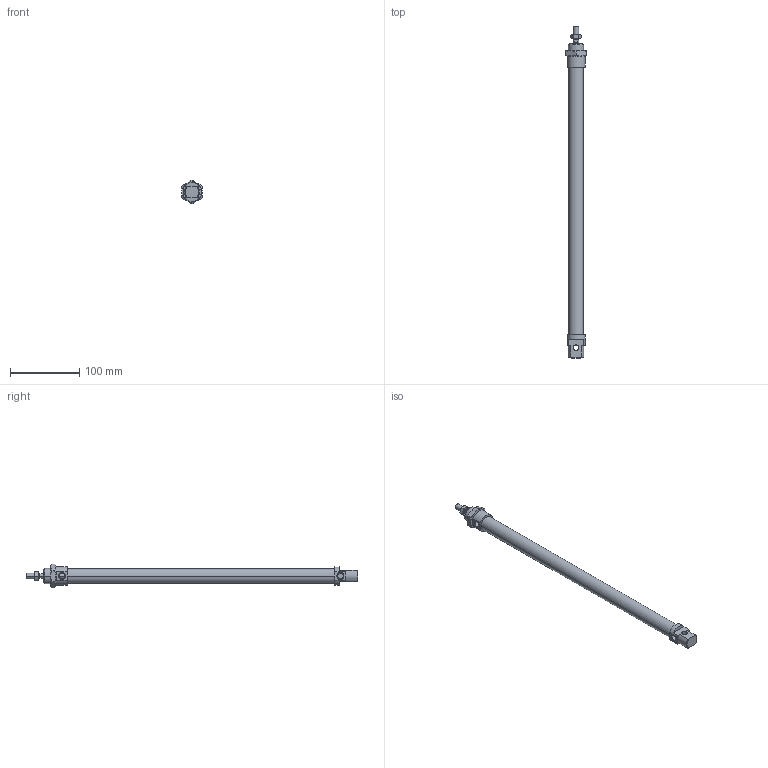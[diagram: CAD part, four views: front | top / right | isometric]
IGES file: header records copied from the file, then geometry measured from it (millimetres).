
Global section: file name: No Iges File Name specified; native system: Autodesk Inventor 2010; preprocessor: AutoDesk Inventor Iges Exporter R2010; author: rivolro1; date: 20090604.093321; units: millimetre
Bounding box: 30 x 480 x 34.64 mm (x, y, z)
Volume: 167903 mm3; surface area: 55435 mm2
Topology: 4 solids, 4 shells, 110 faces, 249 edges, 152 vertices
Faces by surface type: plane 41, cone 28, bspline 21, cylinder 14, revolution 6
